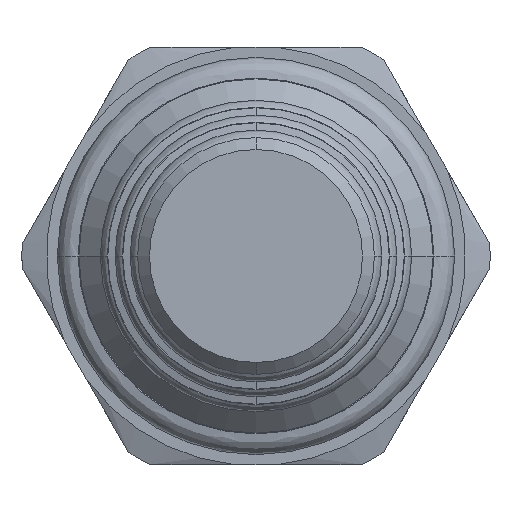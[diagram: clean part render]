
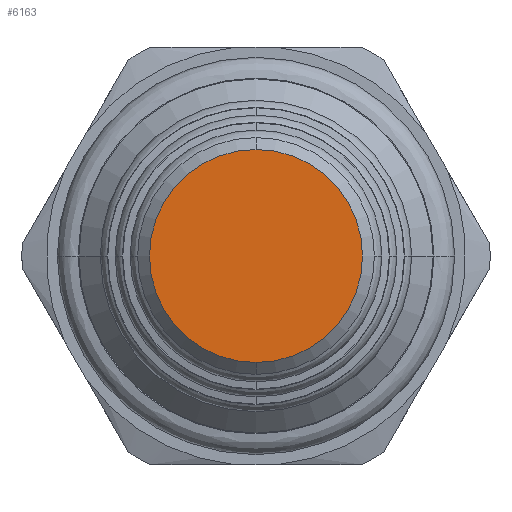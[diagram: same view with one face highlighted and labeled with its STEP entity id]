
A CAD part, front view. The second image highlights one B-rep face of the part: STEP entity #6163.
In plain terms, the highlighted planar face has unit normal (0, -1, 0).
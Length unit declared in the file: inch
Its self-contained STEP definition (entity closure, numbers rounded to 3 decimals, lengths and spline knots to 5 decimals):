
#2206=CARTESIAN_POINT('',(0.,-2.148,0.));
#2207=DIRECTION('',(0.,-1.,0.));
#2208=DIRECTION('',(0.,0.,1.));
#2209=AXIS2_PLACEMENT_3D('',#2206,#2207,#2208);
#2216=CARTESIAN_POINT('',(0.,-2.148,0.));
#2217=DIRECTION('',(0.,-1.,0.));
#2218=DIRECTION('',(0.,0.,-1.));
#2219=AXIS2_PLACEMENT_3D('',#2216,#2217,#2218);
#2650=CARTESIAN_POINT('',(0.,-2.148,0.2235));
#2651=CARTESIAN_POINT('',(0.,-2.148,-0.2235));
#2652=VERTEX_POINT('',#2650);
#2653=VERTEX_POINT('',#2651);
#6153=CARTESIAN_POINT('',(0.,-2.148,0.));
#6154=DIRECTION('',(0.,-1.,0.));
#6155=DIRECTION('',(-1.,0.,0.));
#6156=AXIS2_PLACEMENT_3D('',#6153,#6154,#6155);
#6157=PLANE('',#6156);
#6159=ORIENTED_EDGE('',*,*,#6158,.F.);
#6160=ORIENTED_EDGE('',*,*,#6143,.F.);
#6161=EDGE_LOOP('',(#6159,#6160));
#6162=FACE_OUTER_BOUND('',#6161,.F.);
#6163=ADVANCED_FACE('',(#6162),#6157,.T.);
#2210=CIRCLE('',#2209,0.2235);
#2220=CIRCLE('',#2219,0.2235);
#6143=EDGE_CURVE('',#2652,#2653,#2210,.T.);
#6158=EDGE_CURVE('',#2653,#2652,#2220,.T.);
